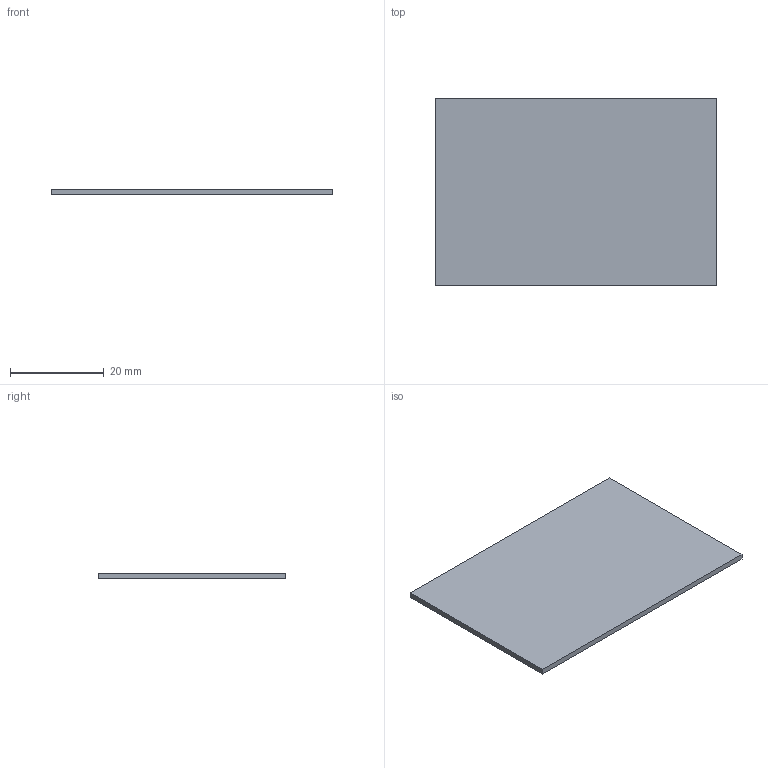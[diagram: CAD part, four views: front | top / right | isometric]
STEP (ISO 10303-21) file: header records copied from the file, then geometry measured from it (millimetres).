
FILE_DESCRIPTION(('Open CASCADE Model'),'2;1');
FILE_NAME('Open CASCADE Shape Model','2026-09-20T04:40:22',('Author'),( 'Open CASCADE'),'Open CASCADE STEP processor 8.0','Open CASCADE 8.0' ,'Unknown');
FILE_SCHEMA(('AP242_MANAGED_MODEL_BASED_3D_ENGINEERING_MIM_LF {1 0 10303 442 1 1 4 }' ));
Length unit declared in the file: millimetre
Products named in the file (1): Open CASCADE STEP translator 8.0 12
Bounding box: 60 x 40 x 1.2 mm (x, y, z)
Volume: 2880 mm3; surface area: 5040 mm2
Topology: 1 solids, 1 shells, 6 faces, 12 edges, 8 vertices
Faces by surface type: plane 6
Entity records: 322 total; most frequent: CARTESIAN_POINT 51, DIRECTION 50, LINE 36, VECTOR 36, ORIENTED_EDGE 24, PCURVE 24, DEFINITIONAL_REPRESENTATION 24, EDGE_CURVE 12
